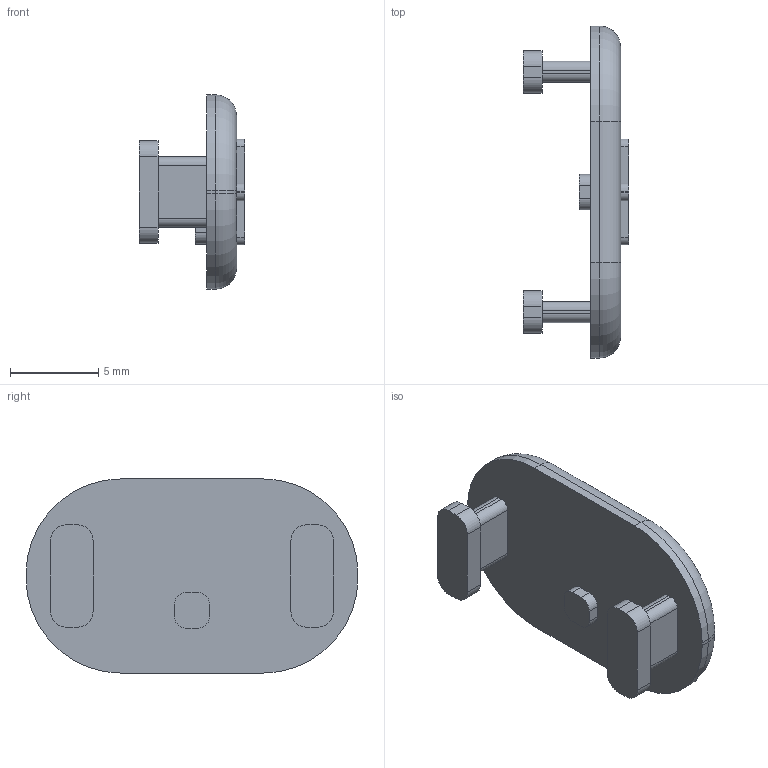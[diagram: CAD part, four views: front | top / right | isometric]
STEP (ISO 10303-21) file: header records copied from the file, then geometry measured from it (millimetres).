
FILE_DESCRIPTION(('Open CASCADE Model'),'2;1');
FILE_NAME('Open CASCADE Shape Model','2026-09-08T12:38:12',('Author'),( 'Open CASCADE'),'Open CASCADE STEP processor 7.7','Open CASCADE 7.7' ,'Unknown');
FILE_SCHEMA(('AUTOMOTIVE_DESIGN { 1 0 10303 214 1 1 1 1 }'));
Length unit declared in the file: millimetre
Products named in the file (1): Open CASCADE STEP translator 7.7 2
Bounding box: 5.95 x 18.8 x 11 mm (x, y, z)
Volume: 354.1 mm3; surface area: 555.3 mm2
Topology: 1 solids, 1 shells, 84 faces, 220 edges, 144 vertices
Faces by surface type: plane 44, cylinder 36, torus 4
Entity records: 5550 total; most frequent: CARTESIAN_POINT 1057, DIRECTION 878, LINE 520, VECTOR 520, ORIENTED_EDGE 440, PCURVE 440, DEFINITIONAL_REPRESENTATION 440, EDGE_CURVE 220
